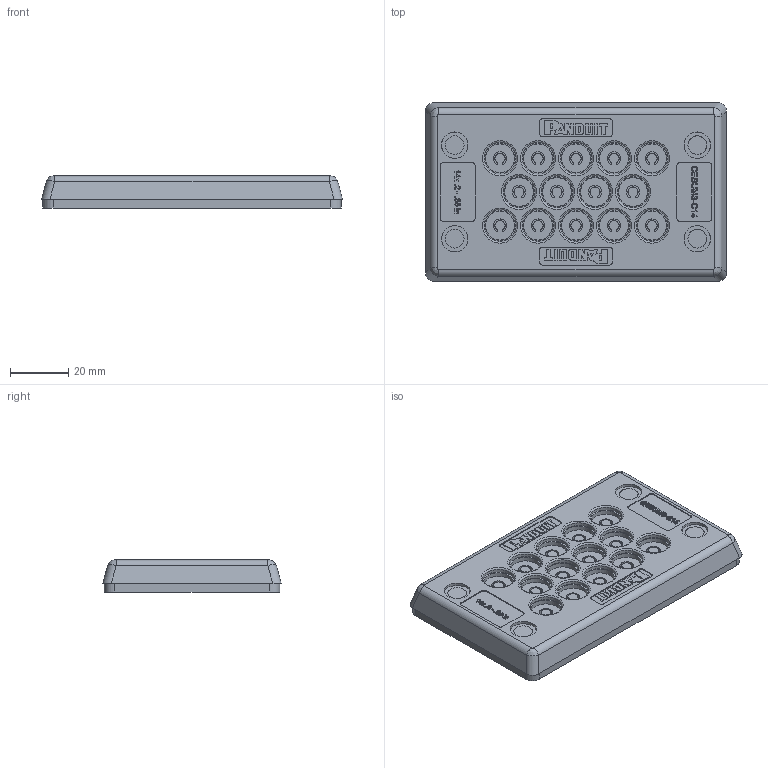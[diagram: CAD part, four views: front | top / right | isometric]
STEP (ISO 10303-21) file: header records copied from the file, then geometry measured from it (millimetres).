
FILE_DESCRIPTION(/* description */ (''),/* implementation_level */ '2;1');
FILE_NAME(/* name */ 'C:\SapWorkDir\Inventor\MP1\ConvertTempPath\87_16_121329_00_A_220602_KDP-Z 10-14.stp',/* time_stamp */ '2022-06-02T09:58:36+02:00',/* author */ ('BAUER'),/* organization */ (''),/* preprocessor_version */ 'ST-DEVELOPER v16.13',/* originating_system */ 'Autodesk Inventor 2018',/* authorisation */ '');
FILE_SCHEMA (('AUTOMOTIVE_DESIGN { 1 0 10303 214 3 1 1 }'));
Length unit declared in the file: millimetre
Products named in the file (1): 121329
Bounding box: 103 x 61 x 11 mm (x, y, z)
Volume: 30840.8 mm3; surface area: 32772 mm2
Topology: 2 solids, 2 shells, 1819 faces, 4572 edges, 2718 vertices
Faces by surface type: plane 813, cylinder 530, sphere 183, bspline 131, cone 112, torus 50
Full cylindrical faces by diameter (mm): 6 x3, 6.4 x8
Entity records: 53734 total; most frequent: CARTESIAN_POINT 10841, DIRECTION 8937, ORIENTED_EDGE 8664, EDGE_CURVE 4332, AXIS2_PLACEMENT_3D 3170, VERTEX_POINT 2706, LINE 2597, VECTOR 2597
